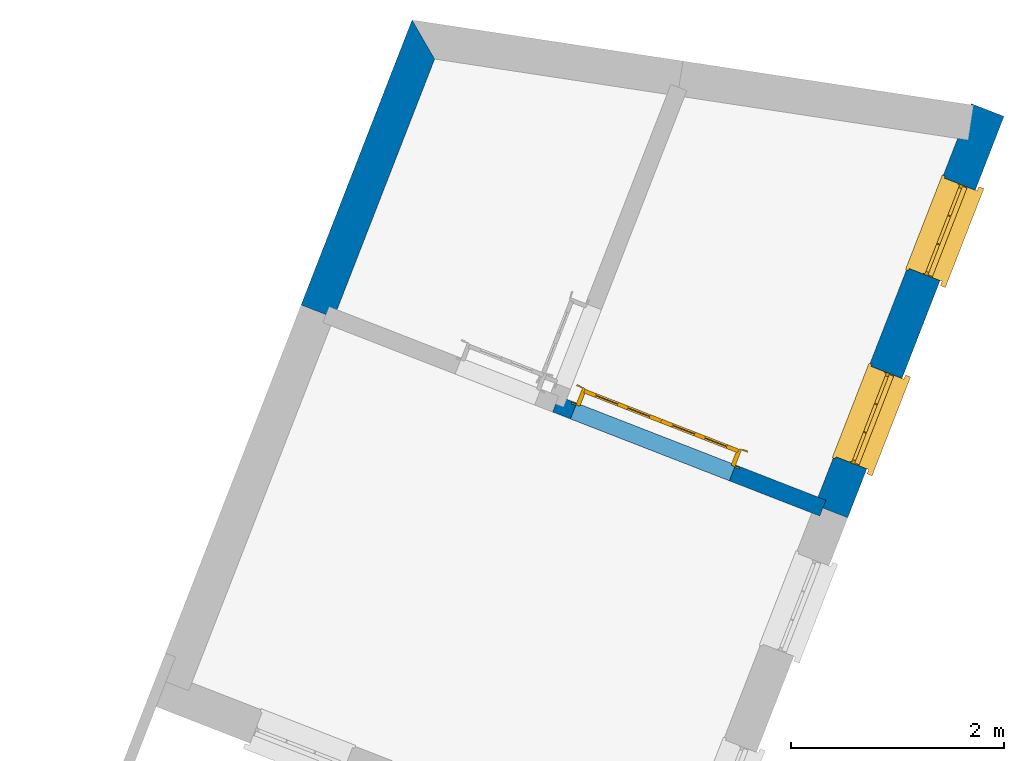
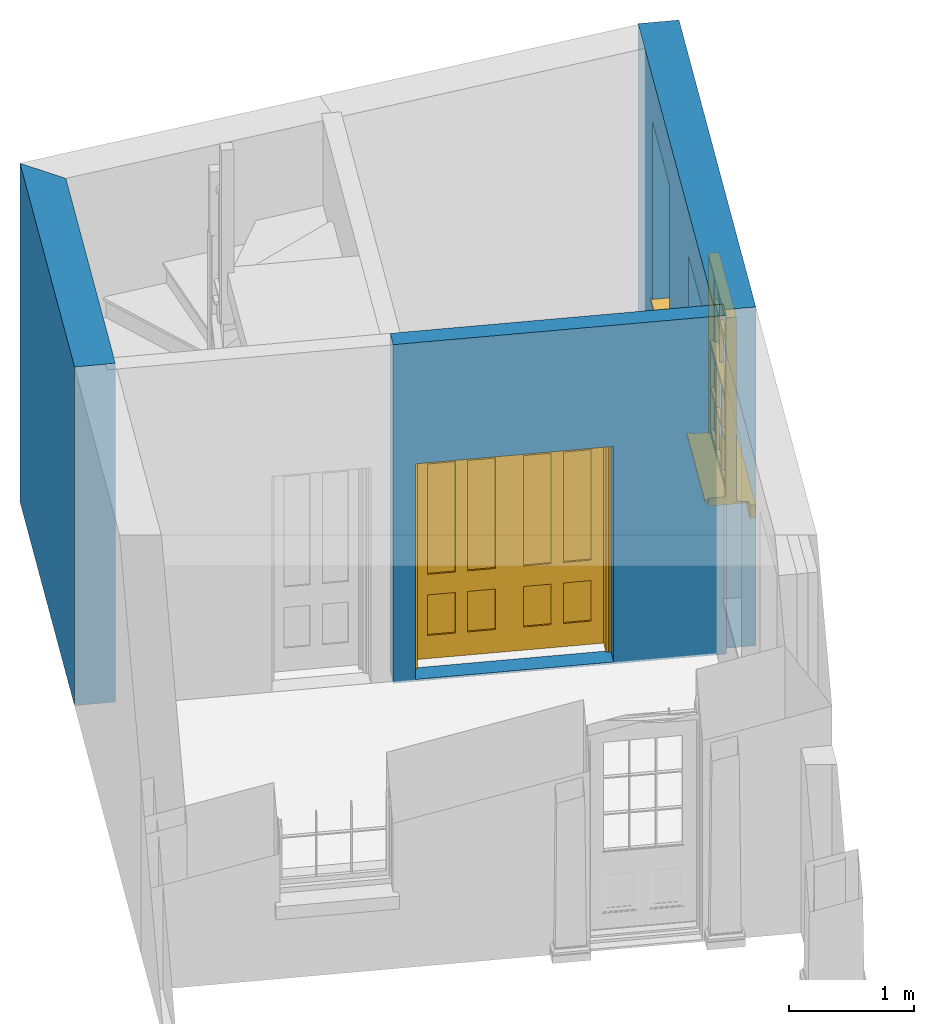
# One storey, part 5 of 7: 3 walls, 2 windows, 1 door, 3 openings.
"""IFC4 building model written with IfcOpenShell, lengths in metres."""

from ifc_helpers import new_model, si_unit, frame, origin, origin_with_axes, place, context, subcontext, project, spatial, polyline, outline, extrude, faceted_brep, source, transform, mapped, material, layer, layer_set, layer_usage, type_object, type_shapes, element, fill, save


model = new_model("IFC4")

# Units and contexts
model_context = context("Model", 3, world=origin_with_axes())
body_context = subcontext(model_context, "Body", "Model", "MODEL_VIEW")
ifc_project = project(units=[si_unit("PLANEANGLEUNIT", "RADIAN"), si_unit("MASSUNIT", "GRAM", prefix="KILO"), si_unit("FORCEUNIT", "NEWTON", prefix="KILO"), si_unit("LENGTHUNIT", "METRE"), si_unit("AREAUNIT", "SQUARE_METRE"), si_unit("VOLUMEUNIT", "CUBIC_METRE")], contexts=[model_context, model_context])

# Sites, building, storey
site_1_placement = place(None, origin_with_axes())
site_1 = spatial("IfcSite", under=ifc_project, at=site_1_placement, Name="Tamar")
site_2_placement = place(site_1_placement, origin_with_axes())
site_2 = spatial("IfcSite", under=site_1, at=site_2_placement, Name="Site plot-10", CompositionType="ELEMENT")
building_placement = place(None, origin_with_axes())
building = spatial("IfcBuilding", under=site_2, at=building_placement, Name="Building plot-10", CompositionType="ELEMENT")
storey_placement = place(None, frame((0.0, 0.0, 26.8), z_axis=(0.0, 0.0, 1.0), x_axis=(1.0, 0.0, 0.0)))
storey = spatial("IfcBuildingStorey", under=building, at=storey_placement, Name="plot-10 0", CompositionType="ELEMENT", Elevation=26.8)

# Wall, openings, windows
ifc_material_1 = material(Name="Masonry")
ifc_layer_1 = layer(ifc_material_1, 0.33, ventilated=False)
ifc_layer_set_1 = layer_set([ifc_layer_1], Name="exterior_0.08_0.25")
ifc_layer_usage_1 = layer_usage(ifc_layer_set_1, "AXIS2", "POSITIVE", -0.25)
wall_type_1 = type_object("IfcWallType", Name="exterior_0.08_0.25", PredefinedType="SOLIDWALL", material=ifc_layer_set_1)
wall_1_placement = place(storey_placement, frame((236.125582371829, 318.345961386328, 0.0), z_axis=(0.0, 0.0, 1.0), x_axis=(0.362808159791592, 0.93186385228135, 0.0)))
wall_1 = element("IfcWall", 1, at=wall_1_placement, inside=storey, type_object=wall_type_1, material=ifc_layer_usage_1, Name="exterior", context=body_context, shape_type="SweptSolid", body=[
    extrude(outline(polyline([(6.32872893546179e-15, 0.0800000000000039), (-3.66775628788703e-14, -0.249999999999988), (4.03870069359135, -0.249999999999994), (4.03870069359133, 0.0800000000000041), (6.32872893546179e-15, 0.0800000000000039)])), origin_with_axes(), (0.0, 0.0, 1.0), 3.3),
])
opening_1_placement = place(wall_1_placement, frame((0.492175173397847, 0.0, 1.05)))
opening_1 = element("IfcOpeningElement", 2, at=opening_1_placement, cuts=wall_1, Name="My Opening", ObjectType="Opening", context=body_context, shape_type="SweptSolid", body=[
    extrude(outline(polyline([(0.0, -0.269999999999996), (0.910000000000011, -0.269999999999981), (0.91000000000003, 1.10000000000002), (1.93178806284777e-14, 1.10000000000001), (0.0, -0.269999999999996)])), origin_with_axes(), (0.0, 0.0, 1.0), 1.82),
])
opening_2_placement = place(wall_1_placement, frame((2.38652552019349, 0.0, 1.05)))
opening_2 = element("IfcOpeningElement", 3, at=opening_2_placement, cuts=wall_1, Name="My Opening", ObjectType="Opening", context=body_context, shape_type="SweptSolid", body=[
    extrude(outline(polyline([(0.0, -0.270000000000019), (0.91000000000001, -0.270000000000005), (0.91000000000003, 1.1), (1.90958360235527e-14, 1.09999999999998), (0.0, -0.270000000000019)])), origin_with_axes(), (0.0, 0.0, 1.0), 1.82),
])
window_type = type_object("IfcWindowType", Name="sash_big", PartitioningType="DOUBLE_PANEL_HORIZONTAL", PredefinedType="NOTDEFINED")
shared_shape_1 = source(origin(), body_context, "Body", "Brep", [
    faceted_brep([(0.033125, 0.145, 0.975209), (0.01, 0.145, 0.975209), (0.033125, 0.145, 1.376042), (0.876875, 0.145, 0.975209), (0.876875, 0.145, 1.376042), (0.9, 0.145, 0.975209), (0.876875, 0.145, 1.386042), (0.876875, 0.145, 1.786875), (0.9, 0.145, 1.81), (0.033125, 0.145, 1.786875), (0.033125, 0.145, 1.386042), (0.01, 0.145, 1.81), (0.876875, 0.115, 1.376042), (0.876875, 0.115, 0.975209), (0.9, 0.115, 0.937083), (0.033125, 0.115, 1.786875), (0.01, 0.115, 1.81), (0.033125, 0.115, 1.386042), (0.01, 0.115, 0.937083), (0.033125, 0.115, 0.975209), (0.033125, 0.115, 1.376042), (0.876875, 0.115, 1.786875), (0.876875, 0.115, 1.386042), (0.9, 0.115, 1.81), (0.033125, 0.145, 0.937083), (0.01, 0.145, 0.937083), (0.033125, 0.145, 0.53625), (0.876875, 0.145, 0.937083), (0.876875, 0.145, 0.53625), (0.9, 0.145, 0.937083), (0.876875, 0.145, 0.52625), (0.876875, 0.145, 0.125417), (0.9, 0.145, 0.077167), (0.033125, 0.145, 0.125417), (0.033125, 0.145, 0.52625), (0.01, 0.145, 0.077167), (-0.0425, 0.0, 0.01), (-0.0425, -0.05, 0.001667), (0.0, 0.0, 0.01), (0.9525, 0.0, 0.01), (0.91, 0.0, 0.01), (0.9525, -0.05, 0.001667), (-0.02, 0.33, 0.077167), (0.0, 0.33, 0.077167), (-0.02, 0.36, 0.077167), (0.0, 0.19, 0.077167), (0.01, 0.19, 0.077167), (0.91, 0.19, 0.077167), (0.91, 0.33, 0.077167), (0.9, 0.19, 0.077167), (0.93, 0.33, 0.077167), (0.93, 0.36, 0.077167), (0.01, 0.175, 0.975209), (0.9, 0.175, 0.975209), (0.876875, 0.175, 0.125417), (0.876875, 0.175, 0.52625), (0.9, 0.175, 0.077167), (0.876875, 0.175, 0.53625), (0.876875, 0.175, 0.937083), (0.033125, 0.175, 0.125417), (0.01, 0.175, 0.077167), (0.033125, 0.175, 0.52625), (0.033125, 0.175, 0.937083), (0.033125, 0.175, 0.53625), (-0.02, 0.33, 0.052167), (-0.02, 0.36, 0.052167), (0.93, 0.36, 0.052167), (0.93, 0.33, 0.052167), (0.91, 0.33, 0.052167), (0.0, 0.33, 0.052167), (0.91, 0.1, 0.026667), (0.0, 0.1, 0.026667), (-0.0425, -0.05, -0.123333), (0.9525, -0.05, -0.123333), (-0.0425, 0.0, -0.123333), (0.9525, 0.0, -0.123333), (0.01, 0.19, 1.81), (0.9, 0.19, 1.81), (0.0, 0.19, 1.82), (0.91, 0.19, 1.82), (0.01, 0.1, 0.077167), (0.9, 0.1, 0.077167), (0.592292, 0.145, 0.125417), (0.592292, 0.175, 0.125417), (0.317708, 0.175, 0.125417), (0.317708, 0.145, 0.125417), (0.592292, 0.145, 0.53625), (0.317708, 0.145, 0.53625), (0.317708, 0.145, 0.52625), (0.592292, 0.145, 0.52625), (0.592292, 0.175, 0.53625), (0.317708, 0.175, 0.53625), (0.592292, 0.115, 1.386042), (0.592292, 0.145, 1.386042), (0.317708, 0.145, 1.386042), (0.317708, 0.115, 1.386042), (0.317708, 0.115, 1.376042), (0.592292, 0.115, 1.376042), (0.317708, 0.145, 1.376042), (0.592292, 0.145, 1.376042), (0.602292, 0.115, 1.376042), (0.592292, 0.115, 0.975209), (0.602292, 0.115, 0.975209), (0.602292, 0.145, 0.975209), (0.592292, 0.145, 0.975209), (0.602292, 0.145, 1.376042), (0.602292, 0.175, 0.53625), (0.602292, 0.145, 0.53625), (0.317708, 0.175, 0.52625), (0.307708, 0.175, 0.125417), (0.307708, 0.175, 0.52625), (0.602292, 0.175, 0.52625), (0.602292, 0.175, 0.125417), (0.592292, 0.175, 0.52625), (0.307708, 0.175, 0.53625), (0.317708, 0.175, 0.937083), (0.307708, 0.175, 0.937083), (0.602292, 0.175, 0.937083), (0.592292, 0.175, 0.937083), (0.307708, 0.145, 0.52625), (0.307708, 0.145, 0.125417), (0.307708, 0.145, 0.53625), (0.307708, 0.145, 0.937083), (0.592292, 0.145, 0.937083), (0.317708, 0.145, 0.937083), (0.602292, 0.145, 0.937083), (0.602292, 0.145, 0.52625), (0.602292, 0.145, 0.125417), (0.307708, 0.115, 1.386042), (0.307708, 0.115, 1.376042), (0.307708, 0.115, 0.975209), (0.317708, 0.115, 0.975209), (0.317708, 0.115, 1.786875), (0.307708, 0.115, 1.786875), (0.602292, 0.115, 1.786875), (0.592292, 0.115, 1.786875), (0.602292, 0.115, 1.386042), (0.602292, 0.145, 1.386042), (0.307708, 0.145, 1.386042), (0.307708, 0.145, 1.786875), (0.317708, 0.145, 1.786875), (0.592292, 0.145, 1.786875), (0.602292, 0.145, 1.786875), (0.307708, 0.145, 1.376042), (0.317708, 0.145, 0.975209), (0.307708, 0.145, 0.975209), (0.91, 0.1, 1.82), (0.9, 0.1, 1.81), (0.01, 0.1, 1.81), (0.0, 0.1, 1.82), (0.91, 0.0, 0.0), (0.0, 0.0, 0.0), (0.91, 0.33, 0.0), (0.0, 0.33, 0.0)], [[[0, 1, 2]], [[3, 4, 5]], [[6, 7, 8]], [[9, 10, 11]], [[12, 13, 14]], [[15, 16, 17]], [[18, 19, 20]], [[21, 22, 23]], [[24, 25, 26]], [[27, 28, 29]], [[30, 31, 32]], [[33, 34, 35]], [[14, 27, 29]], [[25, 24, 18]], [[36, 37, 38]], [[39, 40, 41]], [[42, 43, 44]], [[45, 46, 43]], [[47, 48, 49]], [[50, 51, 48]], [[1, 0, 52]], [[5, 53, 3]], [[54, 55, 56]], [[57, 58, 53]], [[59, 60, 61]], [[62, 63, 52]], [[48, 43, 46, 49]], [[51, 44, 43, 48]], [[64, 42, 44, 65]], [[65, 44, 51, 66]], [[66, 51, 50, 67]], [[65, 66, 68, 69]], [[60, 56, 49, 46]], [[70, 71, 38, 40]], [[37, 41, 40, 38]], [[37, 72, 73, 41]], [[74, 75, 73, 72]], [[8, 11, 76, 77]], [[76, 78, 79, 77]], [[32, 35, 80, 81]], [[81, 80, 71, 70]], [[82, 83, 84, 85]], [[86, 87, 88, 89]], [[86, 90, 91, 87]], [[92, 93, 94, 95]], [[92, 95, 96, 97]], [[96, 98, 99, 97]], [[100, 97, 101, 102]], [[103, 104, 99, 105]], [[97, 99, 104, 101]], [[102, 103, 105, 100]], [[28, 57, 106, 107]], [[108, 84, 109, 110]], [[111, 112, 83, 113]], [[114, 110, 61, 63]], [[90, 113, 108, 91]], [[115, 91, 114, 116]], [[117, 106, 90, 118]], [[111, 106, 57, 55]], [[119, 110, 109, 120]], [[34, 61, 110, 119]], [[89, 113, 83, 82]], [[88, 108, 113, 89]], [[85, 84, 108, 88]], [[121, 114, 63, 26]], [[122, 116, 114, 121]], [[123, 118, 90, 86]], [[87, 91, 115, 124]], [[107, 106, 117, 125]], [[126, 111, 55, 30]], [[127, 112, 111, 126]], [[126, 30, 28, 107]], [[88, 119, 120, 85]], [[126, 89, 82, 127]], [[125, 123, 86, 107]], [[121, 26, 34, 119]], [[124, 122, 121, 87]], [[128, 17, 20, 129]], [[96, 129, 130, 131]], [[132, 133, 128, 95]], [[134, 135, 92, 136]], [[100, 12, 22, 136]], [[137, 6, 4, 105]], [[94, 138, 139, 140]], [[137, 93, 141, 142]], [[99, 98, 94, 93]], [[143, 2, 10, 138]], [[144, 145, 143, 98]], [[129, 143, 145, 130]], [[20, 2, 143, 129]], [[131, 144, 98, 96]], [[128, 138, 10, 17]], [[133, 139, 138, 128]], [[135, 141, 93, 92]], [[95, 94, 140, 132]], [[22, 6, 137, 136]], [[136, 137, 142, 134]], [[100, 105, 4, 12]], [[107, 86, 89, 126]], [[106, 111, 113, 90]], [[91, 108, 110, 114]], [[87, 121, 119, 88]], [[97, 100, 136, 92]], [[129, 96, 95, 128]], [[98, 143, 138, 94]], [[105, 99, 93, 137]], [[131, 101, 104, 144]], [[124, 115, 118, 123]], [[132, 140, 141, 135]], [[120, 109, 59, 33]], [[15, 9, 139, 133]], [[134, 142, 7, 21]], [[31, 54, 112, 127]], [[36, 74, 72, 37]], [[39, 41, 73, 75]], [[18, 14, 101, 131]], [[23, 16, 132, 135]], [[83, 56, 60, 84]], [[52, 53, 118, 115]], [[53, 52, 144, 104]], [[11, 8, 141, 140]], [[14, 18, 124, 123]], [[2, 1, 11, 10]], [[8, 5, 4, 6]], [[57, 53, 56, 55]], [[60, 52, 63, 61]], [[26, 25, 35, 34]], [[32, 29, 28, 30]], [[14, 23, 22, 12]], [[18, 20, 17, 16]], [[19, 0, 2, 20]], [[17, 10, 9, 15]], [[12, 4, 3, 13]], [[21, 7, 6, 22]], [[27, 58, 57, 28]], [[30, 55, 54, 31]], [[33, 59, 61, 34]], [[26, 63, 62, 24]], [[5, 8, 77, 53]], [[76, 11, 1, 52]], [[46, 45, 78, 76]], [[49, 77, 79, 47]], [[70, 146, 147, 81]], [[71, 80, 148, 149]], [[19, 130, 145, 0]], [[102, 13, 3, 103]], [[116, 122, 24, 62]], [[29, 32, 81, 14]], [[80, 35, 25, 18]], [[60, 46, 76, 52]], [[77, 49, 56, 53]], [[23, 14, 81, 147]], [[16, 148, 80, 18]], [[35, 85, 120]], [[120, 33, 35]], [[127, 82, 32]], [[32, 31, 127]], [[32, 82, 85, 35]], [[102, 101, 14]], [[14, 13, 102]], [[18, 131, 130]], [[130, 19, 18]], [[134, 21, 23]], [[23, 135, 134]], [[16, 15, 133]], [[133, 132, 16]], [[11, 140, 139]], [[139, 9, 11]], [[142, 141, 8]], [[8, 7, 142]], [[23, 147, 148, 16]], [[146, 149, 148, 147]], [[52, 115, 116]], [[116, 62, 52]], [[118, 53, 117]], [[58, 117, 53]], [[27, 125, 117, 58]], [[56, 83, 112]], [[112, 54, 56]], [[109, 84, 60]], [[60, 59, 109]], [[125, 27, 14]], [[14, 123, 125]], [[122, 124, 18]], [[18, 24, 122]], [[145, 144, 52]], [[52, 0, 145]], [[103, 3, 53]], [[53, 104, 103]], [[79, 78, 149, 146]], [[78, 45, 71, 149]], [[146, 70, 47, 79]], [[150, 75, 74, 151]], [[68, 66, 67]], [[48, 68, 67, 50]], [[69, 64, 65]], [[42, 64, 69, 43]], [[69, 68, 152, 153]], [[70, 68, 48, 47]], [[150, 152, 68, 70]], [[43, 69, 71, 45]], [[69, 153, 151, 71]], [[152, 150, 151, 153]], [[38, 151, 74, 36]], [[71, 151, 38]], [[39, 75, 150, 40]], [[40, 150, 70]]]),
])
type_shapes(window_type, [shared_shape_1])
window_1_placement = place(storey_placement, frame((236.555750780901, 318.706643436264, 1.05), z_axis=(0.0, 0.0, 1.0), x_axis=(0.330155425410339, 0.847996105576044, 0.0)))
window_1 = element("IfcWindow", 4, at=window_1_placement, inside=storey, type_object=window_type, Name="kitchen street window", OverallHeight=1.82, OverallWidth=0.91, context=body_context, shape_type="MappedRepresentation", body=[
    mapped(shared_shape_1, transform((0.0, 0.0, 0.0), scale=1.0)),
])
fill(opening_1, window_1)
window_2_placement = place(storey_placement, frame((237.243036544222, 320.471920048, 1.05), z_axis=(0.0, 0.0, 1.0), x_axis=(0.330155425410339, 0.847996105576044, 0.0)))
window_2 = element("IfcWindow", 5, at=window_2_placement, inside=storey, type_object=window_type, Name="kitchen street window", OverallHeight=1.82, OverallWidth=0.91, context=body_context, shape_type="MappedRepresentation", body=[
    mapped(shared_shape_1, transform((0.0, 0.0, 0.0), scale=1.0)),
])
fill(opening_2, window_2)

# Wall
ifc_material_2 = material(Name="Masonry")
ifc_layer_2 = layer(ifc_material_2, 0.33, ventilated=False)
ifc_layer_set_2 = layer_set([ifc_layer_2], Name="party_0.08_0.25")
ifc_layer_usage_2 = layer_usage(ifc_layer_set_2, "AXIS2", "POSITIVE", -0.25)
wall_type_2 = type_object("IfcWallType", Name="party_0.08_0.25", PredefinedType="SOLIDWALL", material=ifc_layer_set_2)
wall_2_placement = place(storey_placement, frame((232.433954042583, 322.645492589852, 0.0), z_axis=(0.0, 0.0, 1.0), x_axis=(-0.362808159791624, -0.931863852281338, 0.0)))
element("IfcWall", 6, at=wall_2_placement, inside=storey, type_object=wall_type_2, material=ifc_layer_usage_2, Name="party", context=body_context, shape_type="SweptSolid", body=[
    extrude(outline(polyline([(0.0640440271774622, 0.0799999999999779), (-0.200137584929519, -0.250000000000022), (2.66722482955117, -0.250000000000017), (2.66722482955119, 0.0800000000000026), (0.0640440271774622, 0.0799999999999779)])), origin_with_axes(), (0.0, 0.0, 1.0), 3.3),
])

# Wall, opening, door
ifc_material_3 = material(Name="Masonry")
ifc_layer_3 = layer(ifc_material_3, 0.16, ventilated=False)
ifc_layer_set_3 = layer_set([ifc_layer_3], Name="interior_0.08_0.08")
ifc_layer_usage_3 = layer_usage(ifc_layer_set_3, "AXIS2", "POSITIVE", -0.08)
wall_type_3 = type_object("IfcWallType", Name="interior_0.08_0.08", PredefinedType="SOLIDWALL", material=ifc_layer_set_3)
wall_3_placement = place(storey_placement, frame((233.619521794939, 319.321661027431, 0.0), z_axis=(0.0, 0.0, 1.0), x_axis=(0.931863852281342, -0.362808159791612, 0.0)))
wall_3 = element("IfcWall", 7, at=wall_3_placement, inside=storey, type_object=wall_type_3, material=ifc_layer_usage_3, Name="interior", context=body_context, shape_type="SweptSolid", body=[
    extrude(outline(polyline([(4.55237209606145e-15, 0.0800000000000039), (-4.56216927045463e-15, -0.0800000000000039), (2.68929905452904, -0.080000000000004), (2.68929905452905, 0.0800000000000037), (4.55237209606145e-15, 0.0800000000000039)])), origin_with_axes(), (0.0, 0.0, 1.0), 3.3),
])
opening_3_placement = place(wall_3_placement, frame((0.180000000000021, 0.0, 0.0199999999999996)))
opening_3 = element("IfcOpeningElement", 8, at=opening_3_placement, cuts=wall_3, Name="My Opening", ObjectType="Opening", context=body_context, shape_type="SweptSolid", body=[
    extrude(outline(polyline([(0.0, -0.100000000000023), (1.59999999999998, -0.100000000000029), (1.59999999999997, 1.1), (-1.09356967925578e-14, 1.1), (0.0, -0.100000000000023)])), origin_with_axes(), (0.0, 0.0, 1.0), 2.1),
])
door_type = type_object("IfcDoorType", Name="door_inside_double", OperationType="SINGLE_SWING_LEFT", PredefinedType="NOTDEFINED")
shared_shape_2 = source(origin(), body_context, "Body", "Brep", [
    faceted_brep([(0.14, 0.307, 1.895), (0.14, 0.307, 0.82), (0.363, 0.307, 0.82), (0.363, 0.307, 1.895), (0.14, 0.292, 1.895), (0.14, 0.292, 0.82), (0.363, 0.292, 0.82), (0.363, 0.292, 1.895), (0.027, 0.292, 1.895), (0.027, 0.292, 0.82), (0.363, 0.292, 0.62), (0.14, 0.292, 0.62), (0.463, 0.292, 0.82), (0.463, 0.292, 1.895), (0.363, 0.292, 2.073), (0.14, 0.292, 2.073), (0.027, 0.292, 2.073), (0.027, 0.33, 1.895), (0.027, 0.33, 0.82), (0.027, 0.292, 0.62), (0.463, 0.292, 0.62), (0.14, 0.307, 0.62), (0.363, 0.307, 0.62), (0.463, 0.307, 0.82), (0.463, 0.307, 1.895), (0.463, 0.292, 2.073), (0.14, 0.33, 2.073), (0.363, 0.33, 2.073), (0.027, 0.33, 2.073), (0.14, 0.33, 1.895), (0.14, 0.33, 0.82), (0.027, 0.33, 0.62), (0.027, 0.292, 0.225), (0.14, 0.292, 0.225), (0.363, 0.292, 0.225), (0.463, 0.292, 0.225), (0.686, 0.292, 0.62), (0.686, 0.292, 0.82), (0.14, 0.307, 0.225), (0.363, 0.307, 0.225), (0.686, 0.307, 0.82), (0.686, 0.307, 1.895), (0.686, 0.292, 1.895), (0.686, 0.292, 2.073), (0.463, 0.33, 2.073), (0.363, 0.33, 1.895), (0.14, 0.315, 1.895), (0.14, 0.315, 0.82), (0.14, 0.33, 0.62), (0.027, 0.33, 0.225), (0.027, 0.292, 0.0), (0.14, 0.292, 0.0), (0.363, 0.292, 0.0), (0.463, 0.292, 0.0), (0.463, 0.307, 0.225), (0.463, 0.307, 0.62), (0.686, 0.307, 0.62), (0.799, 0.292, 0.62), (0.799, 0.292, 0.82), (0.799, 0.292, 1.895), (0.799, 0.292, 2.073), (0.686, 0.33, 2.073), (0.463, 0.33, 1.895), (0.363, 0.315, 1.895), (0.363, 0.315, 0.82), (0.363, 0.33, 0.82), (0.363, 0.33, 0.62), (0.14, 0.33, 0.225), (0.027, 0.33, 0.0), (0.14, 0.33, 0.0), (0.363, 0.33, 0.0), (0.463, 0.33, 0.0), (0.686, 0.292, 0.0), (0.686, 0.292, 0.225), (0.686, 0.307, 0.225), (0.799, 0.292, 0.225), (0.799, 0.33, 0.62), (0.799, 0.33, 0.82), (0.799, 0.33, 1.895), (0.799, 0.33, 2.073), (0.686, 0.33, 1.895), (0.463, 0.33, 0.82), (0.463, 0.33, 0.62), (0.363, 0.315, 0.62), (0.14, 0.315, 0.62), (0.14, 0.315, 0.225), (0.363, 0.33, 0.225), (0.463, 0.33, 0.225), (0.686, 0.33, 0.0), (0.799, 0.292, 0.0), (0.799, 0.33, 0.225), (0.686, 0.33, 0.62), (0.686, 0.33, 0.82), (0.686, 0.315, 1.895), (0.463, 0.315, 1.895), (0.463, 0.315, 0.82), (0.363, 0.315, 0.225), (0.686, 0.33, 0.225), (0.799, 0.33, 0.0), (0.686, 0.315, 0.82), (0.463, 0.315, 0.62), (0.463, 0.315, 0.225), (0.686, 0.315, 0.62), (0.686, 0.315, 0.225), (1.46, 0.33, 1.895), (1.237, 0.33, 1.895), (1.237, 0.33, 2.073), (1.46, 0.33, 2.073), (1.46, 0.315, 1.895), (1.237, 0.315, 1.895), (1.137, 0.33, 1.895), (1.137, 0.33, 2.073), (1.237, 0.292, 2.073), (1.46, 0.292, 2.073), (1.573, 0.33, 1.895), (1.573, 0.33, 2.073), (1.46, 0.33, 0.82), (1.46, 0.315, 0.82), (1.237, 0.315, 0.82), (1.237, 0.33, 0.82), (1.137, 0.33, 0.82), (0.914, 0.33, 2.073), (0.914, 0.33, 1.895), (1.137, 0.292, 2.073), (1.237, 0.292, 1.895), (1.46, 0.292, 1.895), (1.573, 0.292, 2.073), (1.573, 0.33, 0.82), (1.573, 0.292, 1.895), (1.237, 0.33, 0.62), (1.137, 0.33, 0.62), (1.137, 0.315, 0.82), (1.137, 0.315, 1.895), (0.914, 0.292, 2.073), (0.914, 0.315, 1.895), (0.801, 0.33, 2.073), (0.801, 0.33, 1.895), (1.137, 0.292, 1.895), (1.237, 0.307, 1.895), (1.46, 0.307, 1.895), (1.573, 0.292, 0.82), (1.573, 0.33, 0.62), (1.46, 0.33, 0.62), (1.237, 0.33, 0.225), (1.137, 0.33, 0.225), (0.914, 0.33, 0.82), (0.914, 0.33, 0.62), (0.914, 0.315, 0.82), (0.801, 0.292, 2.073), (0.914, 0.292, 1.895), (0.801, 0.33, 0.82), (0.801, 0.292, 1.895), (1.137, 0.292, 0.82), (1.237, 0.292, 0.82), (1.237, 0.307, 0.82), (1.46, 0.307, 0.82), (1.46, 0.292, 0.82), (1.573, 0.292, 0.62), (1.573, 0.33, 0.225), (1.46, 0.33, 0.225), (1.46, 0.315, 0.62), (1.237, 0.315, 0.62), (1.237, 0.33, 0.0), (1.137, 0.33, 0.0), (1.137, 0.315, 0.225), (1.137, 0.315, 0.62), (1.237, 0.315, 0.225), (0.914, 0.315, 0.62), (0.801, 0.33, 0.62), (0.914, 0.307, 1.895), (1.137, 0.307, 1.895), (0.801, 0.292, 0.82), (1.137, 0.292, 0.62), (1.237, 0.292, 0.62), (1.137, 0.307, 0.82), (1.46, 0.292, 0.62), (1.573, 0.292, 0.225), (1.573, 0.33, 0.0), (1.46, 0.33, 0.0), (1.46, 0.315, 0.225), (1.237, 0.292, 0.0), (1.137, 0.292, 0.0), (0.914, 0.33, 0.225), (0.914, 0.33, 0.0), (0.914, 0.315, 0.225), (0.801, 0.33, 0.225), (0.801, 0.292, 0.62), (0.914, 0.292, 0.82), (0.914, 0.307, 0.82), (1.137, 0.292, 0.225), (1.237, 0.292, 0.225), (0.914, 0.292, 0.62), (1.46, 0.292, 0.225), (1.573, 0.292, 0.0), (1.46, 0.292, 0.0), (0.914, 0.292, 0.0), (0.801, 0.33, 0.0), (0.801, 0.292, 0.225), (1.237, 0.307, 0.225), (1.237, 0.307, 0.62), (1.137, 0.307, 0.62), (1.137, 0.307, 0.225), (1.46, 0.307, 0.62), (0.914, 0.307, 0.62), (1.46, 0.307, 0.225), (0.914, 0.292, 0.225), (0.801, 0.292, 0.0), (0.914, 0.307, 0.225), (0.02, 0.335, 0.0), (0.005, 0.34, 0.0), (0.005, 0.34, 2.095), (0.02, 0.335, 2.08), (0.02, 0.33, 0.0), (0.0, 0.335, 0.0), (0.0, 0.335, 2.1), (1.595, 0.34, 2.095), (1.58, 0.335, 2.08), (0.02, 0.33, 2.08), (0.0, 0.33, 0.0), (-0.032, 0.345, 0.0), (-0.032, 0.345, 2.132), (1.6, 0.335, 2.1), (1.595, 0.34, 0.0), (1.58, 0.335, 0.0), (1.58, 0.33, 2.08), (0.025, 0.33, 0.0), (0.025, 0.33, 2.075), (-0.04, 0.34, 0.0), (0.025, 0.29, 0.0), (0.0, 0.17, 0.0), (-0.04, 0.34, 2.14), (1.632, 0.345, 2.132), (1.6, 0.335, 0.0), (1.58, 0.33, 0.0), (1.575, 0.33, 2.075), (0.025, 0.29, 2.075), (-0.06, 0.33, 0.0), (0.035, 0.17, 0.0), (0.0, 0.17, 2.1), (0.0, 0.33, 2.1), (-0.04, 0.345, 0.0), (-0.04, 0.345, 2.14), (1.64, 0.34, 2.14), (1.632, 0.345, 0.0), (1.6, 0.33, 0.0), (1.575, 0.33, 0.0), (1.575, 0.29, 2.075), (0.04, 0.29, 0.0), (0.04, 0.29, 2.06), (-0.06, 0.345, 0.0), (-0.06, 0.33, 2.16), (0.015, 0.165, 0.0), (0.04, 0.17, 0.0), (-0.045, 0.17, 2.145), (-0.045, 0.17, 0.0), (1.6, 0.17, 2.1), (1.6, 0.33, 2.1), (-0.06, 0.345, 2.16), (1.64, 0.345, 2.14), (1.64, 0.34, 0.0), (1.6, 0.17, 0.0), (1.575, 0.29, 0.0), (1.56, 0.29, 2.06), (0.04, 0.17, 2.06), (1.66, 0.33, 2.16), (-0.017, 0.155, 0.0), (-0.025, 0.16, 0.0), (0.02, 0.16, 0.0), (0.035, 0.165, 0.0), (0.035, 0.17, 2.065), (1.645, 0.17, 2.145), (-0.045, 0.155, 2.145), (-0.045, 0.155, 0.0), (1.66, 0.345, 2.16), (1.64, 0.345, 0.0), (1.66, 0.33, 0.0), (1.565, 0.17, 0.0), (1.56, 0.29, 0.0), (1.56, 0.17, 2.06), (-0.017, 0.155, 2.117), (-0.025, 0.16, 2.125), (0.015, 0.165, 2.085), (0.02, 0.16, 2.08), (0.035, 0.165, 2.065), (1.565, 0.17, 2.065), (1.645, 0.17, 0.0), (1.645, 0.155, 2.145), (-0.025, 0.155, 0.0), (1.66, 0.345, 0.0), (1.585, 0.165, 0.0), (1.56, 0.17, 0.0), (1.617, 0.155, 2.117), (1.625, 0.16, 2.125), (-0.025, 0.155, 2.125), (1.585, 0.165, 2.085), (1.58, 0.16, 2.08), (1.565, 0.165, 2.065), (1.625, 0.16, 0.0), (1.645, 0.155, 0.0), (1.625, 0.155, 2.125), (1.617, 0.155, 0.0), (1.565, 0.165, 0.0), (1.58, 0.16, 0.0), (1.625, 0.155, 0.0)], [[[0, 1, 2, 3]], [[1, 0, 4, 5]], [[2, 1, 5, 6]], [[6, 7, 3, 2]], [[7, 4, 0, 3]], [[4, 8, 9, 5]], [[10, 6, 5, 11]], [[6, 12, 13, 7]], [[14, 15, 4, 7]], [[15, 16, 8, 4]], [[9, 8, 17, 18]], [[5, 9, 19, 11]], [[10, 20, 12, 6]], [[10, 11, 21, 22]], [[13, 12, 23, 24]], [[7, 13, 25, 14]], [[26, 15, 14, 27]], [[28, 16, 15, 26]], [[8, 16, 28, 17]], [[17, 29, 30, 18]], [[18, 31, 19, 9]], [[11, 19, 32, 33]], [[34, 35, 20, 10]], [[20, 36, 37, 12]], [[11, 33, 38, 21]], [[39, 22, 21, 38]], [[34, 10, 22, 39]], [[12, 37, 40, 23]], [[24, 23, 40, 41]], [[42, 13, 24, 41]], [[13, 42, 43, 25]], [[14, 25, 44, 27]], [[26, 27, 45, 29]], [[28, 26, 29, 17]], [[30, 29, 46, 47]], [[18, 30, 48, 31]], [[31, 49, 32, 19]], [[33, 32, 50, 51]], [[52, 53, 35, 34]], [[20, 35, 54, 55]], [[36, 20, 55, 56]], [[36, 57, 58, 37]], [[33, 34, 39, 38]], [[37, 42, 41, 40]], [[42, 59, 60, 43]], [[44, 25, 43, 61]], [[62, 45, 27, 44]], [[29, 45, 63, 46]], [[46, 63, 64, 47]], [[65, 30, 47, 64]], [[30, 65, 66, 48]], [[31, 48, 67, 49]], [[68, 50, 32, 49]], [[68, 69, 51, 50]], [[34, 33, 51, 52]], [[53, 52, 70, 71]], [[53, 72, 73, 35]], [[35, 73, 74, 54]], [[55, 54, 74, 56]], [[73, 36, 56, 74]], [[73, 75, 57, 36]], [[57, 76, 77, 58]], [[37, 58, 59, 42]], [[78, 79, 60, 59]], [[60, 79, 61, 43]], [[80, 62, 44, 61]], [[81, 65, 45, 62]], [[45, 65, 64, 63]], [[82, 66, 65, 81]], [[48, 66, 83, 84]], [[67, 48, 84, 85]], [[49, 67, 69, 68]], [[52, 51, 69, 70]], [[71, 70, 86, 87]], [[72, 53, 71, 88]], [[72, 89, 75, 73]], [[75, 90, 76, 57]], [[76, 91, 92, 77]], [[78, 59, 58, 77]], [[78, 80, 61, 79]], [[62, 80, 93, 94]], [[81, 62, 94, 95]], [[87, 86, 66, 82]], [[91, 82, 81, 92]], [[66, 86, 96, 83]], [[84, 83, 96, 85]], [[86, 67, 85, 96]], [[67, 86, 70, 69]], [[88, 71, 87, 97]], [[89, 72, 88, 98]], [[89, 98, 90, 75]], [[90, 97, 91, 76]], [[80, 78, 77, 92]], [[80, 92, 99, 93]], [[99, 95, 94, 93]], [[92, 81, 95, 99]], [[87, 82, 100, 101]], [[82, 91, 102, 100]], [[97, 87, 101, 103]], [[98, 88, 97, 90]], [[91, 97, 103, 102]], [[103, 101, 100, 102]], [[104, 105, 106, 107]], [[105, 104, 108, 109]], [[105, 110, 111, 106]], [[106, 112, 113, 107]], [[114, 104, 107, 115]], [[104, 116, 117, 108]], [[117, 118, 109, 108]], [[119, 105, 109, 118]], [[119, 120, 110, 105]], [[121, 111, 110, 122]], [[123, 112, 106, 111]], [[124, 125, 113, 112]], [[126, 115, 107, 113]], [[104, 114, 127, 116]], [[114, 115, 126, 128]], [[116, 119, 118, 117]], [[129, 130, 120, 119]], [[110, 120, 131, 132]], [[121, 133, 123, 111]], [[122, 110, 132, 134]], [[135, 121, 122, 136]], [[137, 124, 112, 123]], [[125, 124, 138, 139]], [[125, 128, 126, 113]], [[114, 128, 140, 127]], [[141, 142, 116, 127]], [[142, 129, 119, 116]], [[143, 144, 130, 129]], [[145, 120, 130, 146]], [[120, 145, 147, 131]], [[134, 132, 131, 147]], [[135, 148, 133, 121]], [[123, 133, 149, 137]], [[145, 122, 134, 147]], [[136, 122, 145, 150]], [[151, 148, 135, 136]], [[152, 153, 124, 137]], [[124, 153, 154, 138]], [[138, 154, 155, 139]], [[156, 125, 139, 155]], [[156, 140, 128, 125]], [[157, 141, 127, 140]], [[158, 159, 142, 141]], [[129, 142, 160, 161]], [[162, 163, 144, 143]], [[130, 144, 164, 165]], [[143, 129, 161, 166]], [[146, 130, 165, 167]], [[150, 145, 146, 168]], [[133, 148, 151, 149]], [[137, 149, 169, 170]], [[171, 151, 136, 150]], [[172, 173, 153, 152]], [[152, 137, 170, 174]], [[153, 156, 155, 154]], [[175, 157, 140, 156]], [[176, 158, 141, 157]], [[177, 178, 159, 158]], [[142, 159, 179, 160]], [[179, 166, 161, 160]], [[180, 181, 163, 162]], [[182, 144, 163, 183]], [[178, 162, 143, 159]], [[144, 182, 184, 164]], [[167, 165, 164, 184]], [[159, 143, 166, 179]], [[182, 146, 167, 184]], [[168, 146, 182, 185]], [[150, 168, 186, 171]], [[149, 151, 171, 187]], [[149, 187, 188, 169]], [[169, 188, 174, 170]], [[189, 190, 173, 172]], [[173, 175, 156, 153]], [[172, 152, 187, 191]], [[187, 152, 174, 188]], [[192, 176, 157, 175]], [[193, 177, 158, 176]], [[193, 194, 178, 177]], [[181, 180, 190, 189]], [[181, 195, 183, 163]], [[194, 180, 162, 178]], [[185, 182, 183, 196]], [[168, 185, 197, 186]], [[187, 171, 186, 191]], [[173, 190, 198, 199]], [[189, 172, 200, 201]], [[175, 173, 199, 202]], [[172, 191, 203, 200]], [[194, 193, 176, 192]], [[192, 175, 202, 204]], [[180, 194, 192, 190]], [[189, 205, 195, 181]], [[196, 183, 195, 206]], [[196, 206, 197, 185]], [[191, 186, 197, 205]], [[190, 192, 204, 198]], [[199, 198, 204, 202]], [[201, 200, 203, 207]], [[205, 189, 201, 207]], [[191, 205, 207, 203]], [[205, 197, 206, 195]], [[208, 209, 210, 211]], [[208, 212, 213, 209]], [[209, 213, 214, 210]], [[211, 210, 215, 216]], [[211, 217, 212, 208]], [[218, 213, 212]], [[213, 219, 220, 214]], [[210, 214, 221, 215]], [[216, 215, 222, 223]], [[217, 211, 216, 224]], [[225, 212, 217, 226]], [[219, 213, 218, 227]], [[218, 212, 228, 229]], [[219, 227, 230, 220]], [[214, 220, 231, 221]], [[215, 221, 232, 222]], [[222, 232, 233, 223]], [[224, 216, 223, 233]], [[226, 217, 224, 234]], [[225, 228, 212]], [[235, 228, 225, 226]], [[236, 227, 218]], [[237, 229, 228]], [[229, 238, 239, 218]], [[227, 240, 241, 230]], [[220, 230, 242, 231]], [[221, 231, 243, 232]], [[244, 233, 232]], [[234, 224, 233, 245]], [[246, 235, 226, 234]], [[247, 228, 235, 248]], [[240, 227, 236, 249]], [[239, 250, 236, 218]], [[251, 229, 237]], [[252, 237, 228, 247]], [[253, 238, 229, 254]], [[238, 255, 256, 239]], [[241, 240, 257]], [[230, 241, 258, 242]], [[231, 242, 259, 243]], [[259, 244, 232, 243]], [[260, 261, 233, 244]], [[245, 233, 261]], [[261, 246, 234, 245]], [[248, 235, 246, 262]], [[248, 263, 252, 247]], [[250, 257, 249, 236]], [[240, 249, 257]], [[256, 264, 250, 239]], [[265, 266, 229, 251]], [[267, 251, 237, 268]], [[263, 269, 237, 252]], [[270, 255, 238, 253]], [[229, 266, 254]], [[271, 253, 254, 272]], [[256, 255, 260, 244]], [[273, 241, 257]], [[273, 258, 241]], [[242, 258, 274, 259]], [[275, 244, 259]], [[260, 276, 261]], [[261, 277, 262, 246]], [[262, 278, 263, 248]], [[264, 273, 257, 250]], [[244, 275, 264, 256]], [[266, 265, 279, 280]], [[265, 251, 281, 279]], [[251, 267, 282, 281]], [[269, 283, 268, 237]], [[267, 268, 283, 282]], [[278, 284, 269, 263]], [[285, 260, 255, 270]], [[286, 270, 253, 271]], [[272, 254, 266, 287]], [[271, 272, 287]], [[273, 274, 258]], [[288, 275, 259, 274]], [[276, 260, 289]], [[277, 261, 276, 290]], [[278, 262, 277, 290]], [[275, 288, 273, 264]], [[280, 279, 291, 292]], [[287, 266, 280, 293]], [[279, 281, 294, 291]], [[281, 282, 295, 294]], [[284, 296, 283, 269]], [[282, 283, 296, 295]], [[290, 276, 284, 278]], [[285, 297, 260]], [[298, 285, 270, 286]], [[299, 286, 271]], [[271, 287, 293]], [[273, 288, 274]], [[300, 289, 260, 297]], [[301, 276, 289, 302]], [[292, 291, 300, 297]], [[293, 280, 292, 299]], [[291, 294, 289, 300]], [[294, 295, 302, 289]], [[296, 284, 276, 301]], [[295, 296, 301, 302]], [[303, 297, 285, 298]], [[299, 298, 286]], [[271, 293, 299]], [[299, 292, 297, 303]], [[299, 303, 298]]]),
])
type_shapes(door_type, [shared_shape_2])
door_placement = place(storey_placement, frame((233.75097647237, 319.16316917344, 0.0199999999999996), z_axis=(0.0, 0.0, 1.0), x_axis=(1.49098216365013, -0.580493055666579, 0.0)))
door = element("IfcDoor", 9, at=door_placement, inside=storey, type_object=door_type, Name="kitchen living inside door", OverallHeight=2.1, OverallWidth=1.6, context=body_context, shape_type="MappedRepresentation", body=[
    mapped(shared_shape_2, transform((0.0, 0.0, 0.0), scale=1.0)),
])
fill(opening_3, door)

save(model, "model.ifc")
